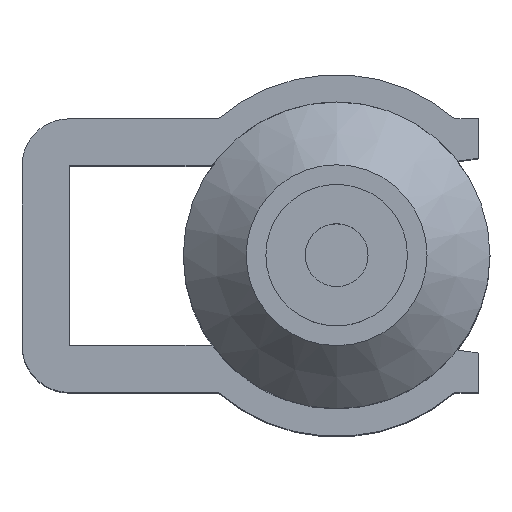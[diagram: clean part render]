
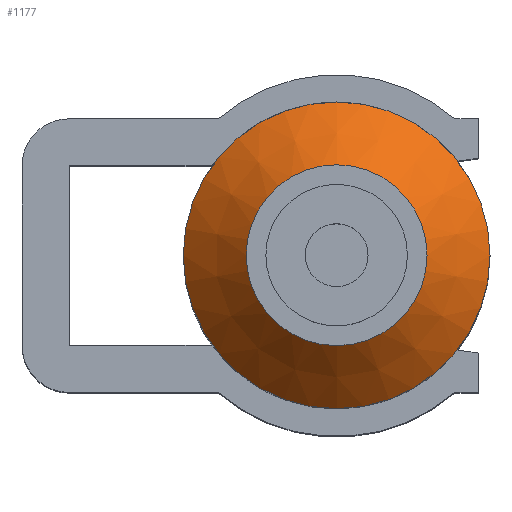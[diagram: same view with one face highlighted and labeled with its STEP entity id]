
A CAD part, top view. The second image highlights one B-rep face of the part: STEP entity #1177.
In plain terms, the highlighted conical face has half-angle 45 degrees and reference radius 7.75 mm.
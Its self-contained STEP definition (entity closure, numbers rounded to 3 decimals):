
#15=CONICAL_SURFACE('',#1300,7.75,0.785);
#113=FACE_OUTER_BOUND('',#177,.T.);
#177=EDGE_LOOP('',(#1038,#1039,#1040,#1041,#1042,#1043));
#294=LINE('',#1983,#403);
#403=VECTOR('',#1622,7.75);
#455=CIRCLE('',#1298,5.75);
#456=CIRCLE('',#1299,5.75);
#457=CIRCLE('',#1301,9.75);
#458=CIRCLE('',#1302,9.75);
#575=VERTEX_POINT('',#1974);
#576=VERTEX_POINT('',#1975);
#577=VERTEX_POINT('',#1979);
#578=VERTEX_POINT('',#1980);
#740=EDGE_CURVE('',#575,#576,#455,.T.);
#741=EDGE_CURVE('',#576,#575,#456,.T.);
#742=EDGE_CURVE('',#577,#578,#457,.T.);
#743=EDGE_CURVE('',#578,#577,#458,.T.);
#744=EDGE_CURVE('',#578,#576,#294,.T.);
#1038=ORIENTED_EDGE('',*,*,#742,.F.);
#1039=ORIENTED_EDGE('',*,*,#743,.F.);
#1040=ORIENTED_EDGE('',*,*,#744,.T.);
#1041=ORIENTED_EDGE('',*,*,#741,.T.);
#1042=ORIENTED_EDGE('',*,*,#740,.T.);
#1043=ORIENTED_EDGE('',*,*,#744,.F.);
#1177=ADVANCED_FACE('',(#113),#15,.T.);
#1298=AXIS2_PLACEMENT_3D('',#1976,#1612,#1613);
#1299=AXIS2_PLACEMENT_3D('',#1977,#1614,#1615);
#1300=AXIS2_PLACEMENT_3D('',#1978,#1616,#1617);
#1301=AXIS2_PLACEMENT_3D('',#1981,#1618,#1619);
#1302=AXIS2_PLACEMENT_3D('',#1982,#1620,#1621);
#1612=DIRECTION('center_axis',(0.,0.,-1.));
#1613=DIRECTION('ref_axis',(1.,0.,0.));
#1614=DIRECTION('center_axis',(0.,0.,-1.));
#1615=DIRECTION('ref_axis',(1.,0.,0.));
#1616=DIRECTION('center_axis',(0.,0.,-1.));
#1617=DIRECTION('ref_axis',(0.,1.,0.));
#1618=DIRECTION('center_axis',(0.,0.,-1.));
#1619=DIRECTION('ref_axis',(1.,0.,0.));
#1620=DIRECTION('center_axis',(0.,0.,-1.));
#1621=DIRECTION('ref_axis',(1.,0.,0.));
#1622=DIRECTION('',(0.,0.707,0.707));
#1974=CARTESIAN_POINT('',(0.,5.75,28.1));
#1975=CARTESIAN_POINT('',(0.,-5.75,28.1));
#1976=CARTESIAN_POINT('Origin',(0.,0.,28.1));
#1977=CARTESIAN_POINT('Origin',(0.,0.,28.1));
#1978=CARTESIAN_POINT('Origin',(0.,0.,26.1));
#1979=CARTESIAN_POINT('',(0.,9.75,24.1));
#1980=CARTESIAN_POINT('',(0.,-9.75,24.1));
#1981=CARTESIAN_POINT('Origin',(0.,0.,24.1));
#1982=CARTESIAN_POINT('Origin',(0.,0.,24.1));
#1983=CARTESIAN_POINT('',(0.,-7.75,26.1));
